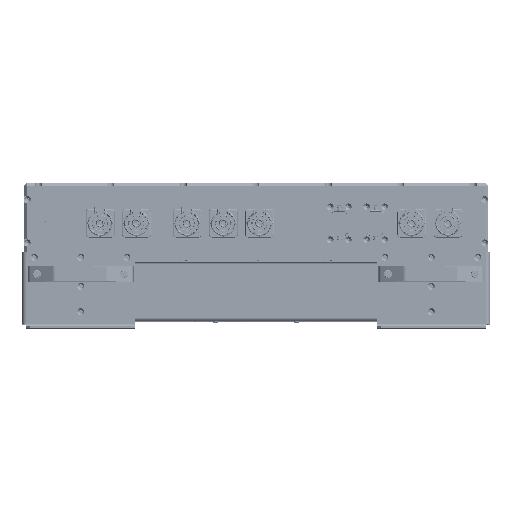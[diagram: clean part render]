
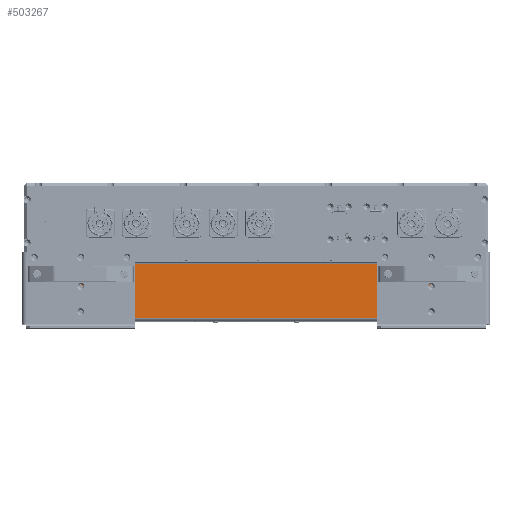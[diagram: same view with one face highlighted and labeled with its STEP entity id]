
A CAD part, top view. The second image highlights one B-rep face of the part: STEP entity #503267.
In plain terms, the highlighted planar face has unit normal (0, 0, 1).
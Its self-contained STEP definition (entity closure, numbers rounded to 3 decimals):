
#2284 = LINE ( 'NONE', #397508, #52331 ) ;
#5115 = DIRECTION ( 'NONE',  ( 1., 0., 0. ) ) ;
#7563 = ORIENTED_EDGE ( 'NONE', *, *, #609854, .F. ) ;
#7993 = AXIS2_PLACEMENT_3D ( 'NONE', #251390, #299900, #193089 ) ;
#8568 = DIRECTION ( 'NONE',  ( 0., 0., 1. ) ) ;
#10446 = EDGE_CURVE ( 'NONE', #476582, #64207, #117329, .T. ) ;
#13920 = DIRECTION ( 'NONE',  ( 0., 0., 1. ) ) ;
#23886 = EDGE_LOOP ( 'NONE', ( #389906, #616089 ) ) ;
#41558 = VERTEX_POINT ( 'NONE', #604166 ) ;
#41755 = DIRECTION ( 'NONE',  ( 0., 0., 1. ) ) ;
#52112 = ORIENTED_EDGE ( 'NONE', *, *, #484262, .F. ) ;
#52331 = VECTOR ( 'NONE', #151239, 1000. ) ;
#53649 = FACE_BOUND ( 'NONE', #23886, .T. ) ;
#58184 = LINE ( 'NONE', #116292, #571636 ) ;
#63260 = CARTESIAN_POINT ( 'NONE',  ( 0., -77.5, 390. ) ) ;
#64207 = VERTEX_POINT ( 'NONE', #386671 ) ;
#66146 = CARTESIAN_POINT ( 'NONE',  ( -242., -72.7, 390. ) ) ;
#75137 = ORIENTED_EDGE ( 'NONE', *, *, #577588, .F. ) ;
#77741 = EDGE_CURVE ( 'NONE', #324064, #603411, #2284, .T. ) ;
#88602 = CARTESIAN_POINT ( 'NONE',  ( -242., -35., 390. ) ) ;
#94831 = ORIENTED_EDGE ( 'NONE', *, *, #512051, .T. ) ;
#94952 = DIRECTION ( 'NONE',  ( 0., 0., 1. ) ) ;
#98474 = VECTOR ( 'NONE', #257266, 1000. ) ;
#101520 = DIRECTION ( 'NONE',  ( 0., 1., 0. ) ) ;
#115184 = VERTEX_POINT ( 'NONE', #66146 ) ;
#116292 = CARTESIAN_POINT ( 'NONE',  ( 305., -77.5, 390. ) ) ;
#117329 = CIRCLE ( 'NONE', #365758, 2.7 ) ;
#119537 = AXIS2_PLACEMENT_3D ( 'NONE', #297049, #8568, #403769 ) ;
#123434 = CARTESIAN_POINT ( 'NONE',  ( -242., -37.7, 390. ) ) ;
#132160 = ORIENTED_EDGE ( 'NONE', *, *, #561447, .F. ) ;
#140486 = ORIENTED_EDGE ( 'NONE', *, *, #188553, .F. ) ;
#145477 = CARTESIAN_POINT ( 'NONE',  ( -305., -78.5, 390. ) ) ;
#151239 = DIRECTION ( 'NONE',  ( 0., -1., 0. ) ) ;
#157918 = CARTESIAN_POINT ( 'NONE',  ( 242., -70., 390. ) ) ;
#166348 = CARTESIAN_POINT ( 'NONE',  ( 0., -78.5, 390. ) ) ;
#177020 = AXIS2_PLACEMENT_3D ( 'NONE', #291254, #41755, #242698 ) ;
#188553 = EDGE_CURVE ( 'NONE', #115184, #341807, #554424, .T. ) ;
#192225 = ORIENTED_EDGE ( 'NONE', *, *, #393283, .T. ) ;
#192808 = CIRCLE ( 'NONE', #482246, 2.7 ) ;
#193089 = DIRECTION ( 'NONE',  ( 0., 1., 0. ) ) ;
#193262 = CARTESIAN_POINT ( 'NONE',  ( 305., -4., 390. ) ) ;
#200289 = CARTESIAN_POINT ( 'NONE',  ( -242., -32.3, 390. ) ) ;
#207192 = DIRECTION ( 'NONE',  ( 0., 1., 0. ) ) ;
#208382 = DIRECTION ( 'NONE',  ( 0., 1., 0. ) ) ;
#236085 = EDGE_CURVE ( 'NONE', #64207, #476582, #627275, .T. ) ;
#236511 = EDGE_LOOP ( 'NONE', ( #132160, #52112 ) ) ;
#242698 = DIRECTION ( 'NONE',  ( 0., 1., 0. ) ) ;
#243570 = ORIENTED_EDGE ( 'NONE', *, *, #483350, .F. ) ;
#244990 = FACE_BOUND ( 'NONE', #236511, .T. ) ;
#246563 = CARTESIAN_POINT ( 'NONE',  ( -242., -70., 390. ) ) ;
#248152 = FACE_OUTER_BOUND ( 'NONE', #525118, .T. ) ;
#250712 = CARTESIAN_POINT ( 'NONE',  ( 242., -35., 390. ) ) ;
#251390 = CARTESIAN_POINT ( 'NONE',  ( -242., -35., 390. ) ) ;
#251402 = PLANE ( 'NONE',  #556542 ) ;
#257266 = DIRECTION ( 'NONE',  ( 1., 0., 0. ) ) ;
#262249 = EDGE_CURVE ( 'NONE', #579934, #469549, #280740, .T. ) ;
#275104 = EDGE_LOOP ( 'NONE', ( #446187, #243570 ) ) ;
#280740 = CIRCLE ( 'NONE', #177020, 2.7 ) ;
#287345 = CIRCLE ( 'NONE', #7993, 2.7 ) ;
#291254 = CARTESIAN_POINT ( 'NONE',  ( 242., -35., 390. ) ) ;
#292683 = DIRECTION ( 'NONE',  ( 0., 1., 0. ) ) ;
#293198 = CARTESIAN_POINT ( 'NONE',  ( 242., -37.7, 390. ) ) ;
#296738 = LINE ( 'NONE', #449004, #503453 ) ;
#297049 = CARTESIAN_POINT ( 'NONE',  ( -242., -70., 390. ) ) ;
#299900 = DIRECTION ( 'NONE',  ( 0., 0., 1. ) ) ;
#318382 = VERTEX_POINT ( 'NONE', #200289 ) ;
#322359 = VERTEX_POINT ( 'NONE', #123434 ) ;
#324064 = VERTEX_POINT ( 'NONE', #448181 ) ;
#326839 = ORIENTED_EDGE ( 'NONE', *, *, #77741, .T. ) ;
#341807 = VERTEX_POINT ( 'NONE', #572069 ) ;
#345202 = FACE_BOUND ( 'NONE', #356920, .T. ) ;
#347850 = AXIS2_PLACEMENT_3D ( 'NONE', #506261, #13920, #208382 ) ;
#350169 = VERTEX_POINT ( 'NONE', #193262 ) ;
#351542 = FACE_BOUND ( 'NONE', #275104, .T. ) ;
#356920 = EDGE_LOOP ( 'NONE', ( #140486, #7563 ) ) ;
#365758 = AXIS2_PLACEMENT_3D ( 'NONE', #157918, #611344, #562779 ) ;
#377308 = CIRCLE ( 'NONE', #605036, 2.7 ) ;
#386671 = CARTESIAN_POINT ( 'NONE',  ( 242., -67.3, 390. ) ) ;
#388112 = AXIS2_PLACEMENT_3D ( 'NONE', #246563, #440929, #596448 ) ;
#389906 = ORIENTED_EDGE ( 'NONE', *, *, #10446, .F. ) ;
#393283 = EDGE_CURVE ( 'NONE', #603411, #41558, #610271, .T. ) ;
#397508 = CARTESIAN_POINT ( 'NONE',  ( -305., -77.5, 390. ) ) ;
#403769 = DIRECTION ( 'NONE',  ( 0., 1., 0. ) ) ;
#409815 = DIRECTION ( 'NONE',  ( 1., 0., 0. ) ) ;
#440929 = DIRECTION ( 'NONE',  ( 0., 0., 1. ) ) ;
#445463 = CARTESIAN_POINT ( 'NONE',  ( 242., -32.3, 390. ) ) ;
#446187 = ORIENTED_EDGE ( 'NONE', *, *, #262249, .F. ) ;
#448181 = CARTESIAN_POINT ( 'NONE',  ( -305., -4., 390. ) ) ;
#449004 = CARTESIAN_POINT ( 'NONE',  ( -305., -4., 390. ) ) ;
#461657 = DIRECTION ( 'NONE',  ( 0., 0., 1. ) ) ;
#469549 = VERTEX_POINT ( 'NONE', #445463 ) ;
#476582 = VERTEX_POINT ( 'NONE', #613894 ) ;
#482246 = AXIS2_PLACEMENT_3D ( 'NONE', #88602, #94952, #292683 ) ;
#483350 = EDGE_CURVE ( 'NONE', #469549, #579934, #377308, .T. ) ;
#484262 = EDGE_CURVE ( 'NONE', #318382, #322359, #192808, .T. ) ;
#487159 = DIRECTION ( 'NONE',  ( 0., 0., 1. ) ) ;
#503267 = ADVANCED_FACE ( 'NONE', ( #53649, #351542, #244990, #345202, #248152 ), #251402, .T. ) ;
#503453 = VECTOR ( 'NONE', #5115, 1000. ) ;
#506261 = CARTESIAN_POINT ( 'NONE',  ( 242., -70., 390. ) ) ;
#512051 = EDGE_CURVE ( 'NONE', #41558, #350169, #58184, .T. ) ;
#525118 = EDGE_LOOP ( 'NONE', ( #94831, #75137, #326839, #192225 ) ) ;
#532873 = CIRCLE ( 'NONE', #388112, 2.7 ) ;
#554424 = CIRCLE ( 'NONE', #119537, 2.7 ) ;
#556542 = AXIS2_PLACEMENT_3D ( 'NONE', #63260, #461657, #409815 ) ;
#561447 = EDGE_CURVE ( 'NONE', #322359, #318382, #287345, .T. ) ;
#562779 = DIRECTION ( 'NONE',  ( 0., 1., 0. ) ) ;
#571636 = VECTOR ( 'NONE', #207192, 1000. ) ;
#572069 = CARTESIAN_POINT ( 'NONE',  ( -242., -67.3, 390. ) ) ;
#577588 = EDGE_CURVE ( 'NONE', #324064, #350169, #296738, .T. ) ;
#579934 = VERTEX_POINT ( 'NONE', #293198 ) ;
#596448 = DIRECTION ( 'NONE',  ( 0., 1., 0. ) ) ;
#603411 = VERTEX_POINT ( 'NONE', #145477 ) ;
#604166 = CARTESIAN_POINT ( 'NONE',  ( 305., -78.5, 390. ) ) ;
#605036 = AXIS2_PLACEMENT_3D ( 'NONE', #250712, #487159, #101520 ) ;
#609854 = EDGE_CURVE ( 'NONE', #341807, #115184, #532873, .T. ) ;
#610271 = LINE ( 'NONE', #166348, #98474 ) ;
#611344 = DIRECTION ( 'NONE',  ( 0., 0., 1. ) ) ;
#613894 = CARTESIAN_POINT ( 'NONE',  ( 242., -72.7, 390. ) ) ;
#616089 = ORIENTED_EDGE ( 'NONE', *, *, #236085, .F. ) ;
#627275 = CIRCLE ( 'NONE', #347850, 2.7 ) ;
